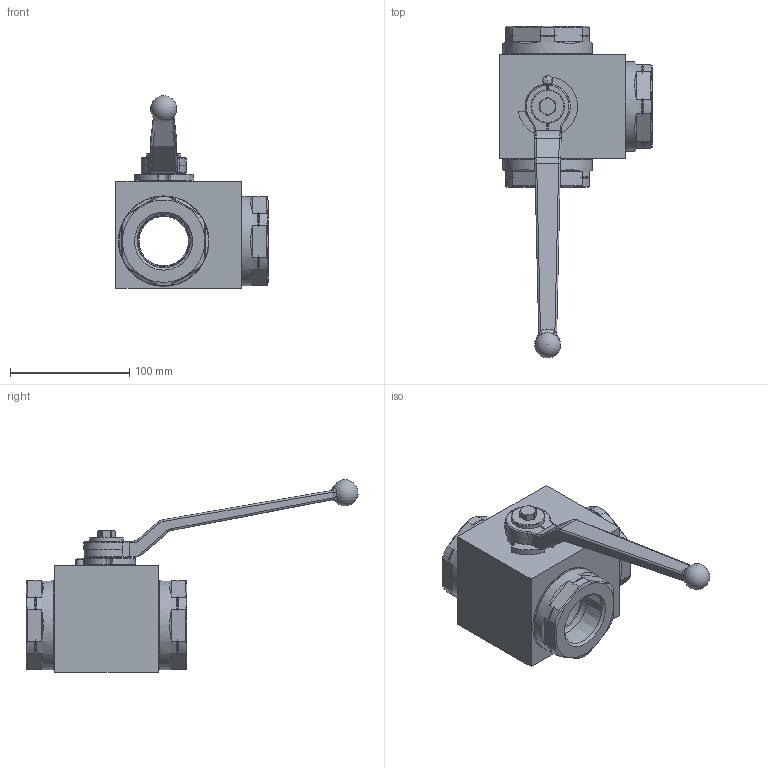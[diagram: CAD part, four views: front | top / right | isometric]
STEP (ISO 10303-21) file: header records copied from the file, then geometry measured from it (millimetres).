
FILE_DESCRIPTION( ( 'Unknown' ), '1' );
FILE_NAME( 'H:/PISTER/3D-MODELLE/BK3-Edelstahl stp/BK3-Edelst DN40 3_2 NPT.stp', 'Unknown', ( 'Unknown' ), ( 'Unknown' ), 'PSStep 14.0', 'Unknown', ' ' );
FILE_SCHEMA( ( 'AUTOMOTIVE_DESIGN { 1 0 10303 214 1 1 1 1 }' ) );
Length unit declared in the file: millimetre
Products named in the file (11): Assem1; 56-032-171-oa2; 09-17-002; 58-1473-020-oa3; 58-0440-008; 03-040-001-oa4; 04-040-098-oa5; 04-040-098-oa6; 56-032-048-oa13; Griff_SW17_; 01-040-013-oa14
Assembly tree (10 placements, depth 2):
  Assem1
    56-032-171-oa2
    09-17-002
    58-1473-020-oa3
    58-0440-008
    03-040-001-oa4
    04-040-098-oa5
    04-040-098-oa6
    56-032-048-oa13
    Griff_SW17_
    01-040-013-oa14
Bounding box: 127.5 x 278.42 x 161.6 mm (x, y, z)
Volume: 687176 mm3; surface area: 146501.7 mm2
Topology: 10 solids, 10 shells, 422 faces, 1123 edges, 725 vertices
Faces by surface type: plane 141, cylinder 113, cone 101, bspline 36, torus 28, sphere 3
Full cylindrical faces by diameter (mm): 6.647 x1, 7.98 x1, 8 x1, 9.2 x1, 24 x2, 28 x1, 32 x1, 38 x1, 40 x1, 56 x1, 60.5 x1, 62.835 x1, 63 x1, 65 x1, 65.2 x3, 65.35 x1, 68 x1, 70 x3, 75 x3, 76 x3
Entity records: 18539 total; most frequent: CARTESIAN_POINT 5346, ORIENTED_EDGE 1998, DIRECTION 1930, EDGE_CURVE 999, AXIS2_PLACEMENT_3D 798, VERTEX_POINT 687, EDGE_LOOP 530, FACE_OUTER_BOUND 463
